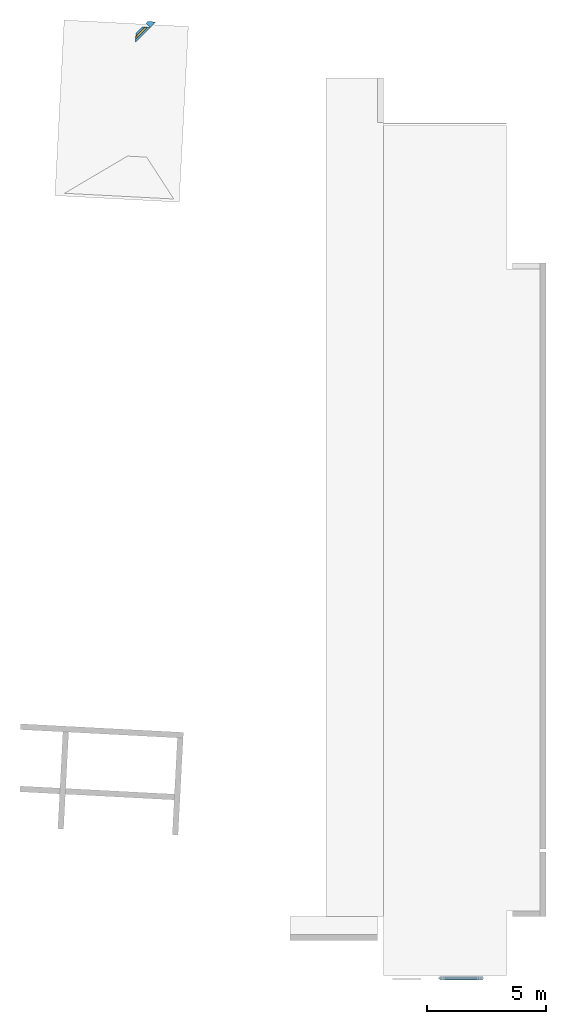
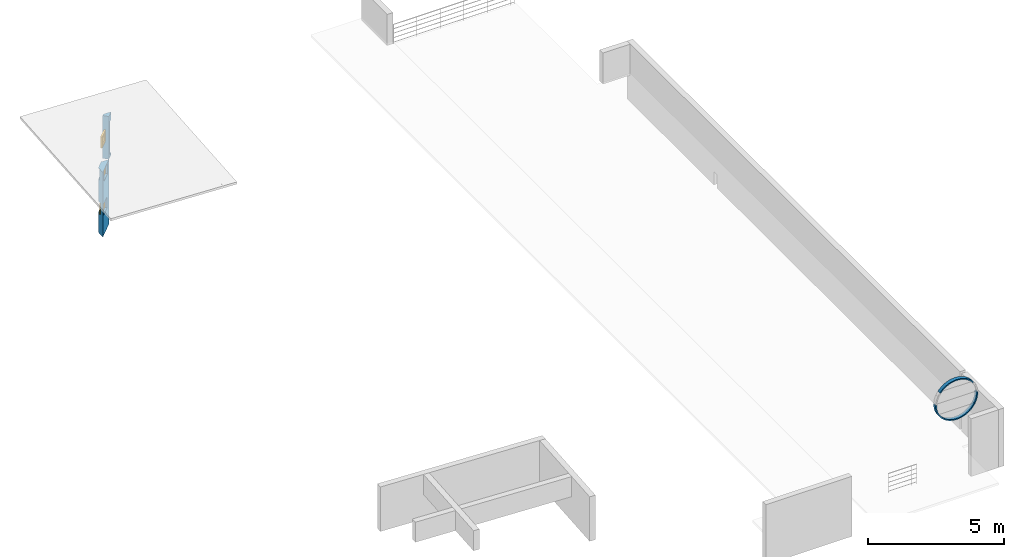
"""IFC2X3 building model written with IfcOpenShell, lengths in millimetres."""

from ifc_helpers import new_model, entity, si_unit, converted_unit, derived_unit, direction, frame, frame_2d, origin, place, context, subcontext, project, spatial, polyline, rectangle, outline, extrude, faceted_brep, source, transform, mapped, material, material_list, layer, layer_set, type_object, type_shapes, element, fill, aggregate, save


model = new_model("IFC2X3")

# Units and contexts
model_context = context("Model", 3, precision=0.01, world=origin(), true_north=direction((6.12303176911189e-17, 1.0)))
body_context = subcontext(model_context, "Body", "Model", "MODEL_VIEW")
ifc_project = project(units=[si_unit("LENGTHUNIT", "METRE", prefix="MILLI"), si_unit("AREAUNIT", "SQUARE_METRE"), si_unit("VOLUMEUNIT", "CUBIC_METRE"), converted_unit("PLANEANGLEUNIT", "DEGREE", entity("IfcRatioMeasure", 0.0174532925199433), si_unit("PLANEANGLEUNIT", "RADIAN"), dimensions=[0, 0, 0, 0, 0, 0, 0]), si_unit("MASSUNIT", "GRAM", prefix="KILO"), derived_unit("MASSDENSITYUNIT", [(si_unit("MASSUNIT", "GRAM", prefix="KILO"), 1), (si_unit("LENGTHUNIT", "METRE"), -3)]), si_unit("TIMEUNIT", "SECOND"), si_unit("FREQUENCYUNIT", "HERTZ"), si_unit("THERMODYNAMICTEMPERATUREUNIT", "DEGREE_CELSIUS"), derived_unit("THERMALTRANSMITTANCEUNIT", [(si_unit("MASSUNIT", "GRAM", prefix="KILO"), 1), (si_unit("THERMODYNAMICTEMPERATUREUNIT", "KELVIN"), -1), (si_unit("TIMEUNIT", "SECOND"), -3)]), derived_unit("VOLUMETRICFLOWRATEUNIT", [(si_unit("LENGTHUNIT", "METRE"), 3), (si_unit("TIMEUNIT", "SECOND"), -1)]), si_unit("ELECTRICCURRENTUNIT", "AMPERE"), si_unit("ELECTRICVOLTAGEUNIT", "VOLT"), si_unit("POWERUNIT", "WATT"), si_unit("FORCEUNIT", "NEWTON", prefix="KILO"), si_unit("ILLUMINANCEUNIT", "LUX"), si_unit("LUMINOUSFLUXUNIT", "LUMEN"), si_unit("LUMINOUSINTENSITYUNIT", "CANDELA"), derived_unit("USERDEFINED", [(si_unit("MASSUNIT", "GRAM", prefix="KILO"), -1), (si_unit("LENGTHUNIT", "METRE"), -2), (si_unit("TIMEUNIT", "SECOND"), 3), (si_unit("LUMINOUSFLUXUNIT", "LUMEN"), 1)]), derived_unit("LINEARVELOCITYUNIT", [(si_unit("LENGTHUNIT", "METRE"), 1), (si_unit("TIMEUNIT", "SECOND"), -1)]), si_unit("PRESSUREUNIT", "PASCAL"), derived_unit("USERDEFINED", [(si_unit("LENGTHUNIT", "METRE"), -2), (si_unit("MASSUNIT", "GRAM", prefix="KILO"), 1), (si_unit("TIMEUNIT", "SECOND"), -2)])], contexts=[model_context])

# Site, building, storey
site_placement = place(None, origin())
site = spatial("IfcSite", under=ifc_project, at=site_placement, Name="表面", CompositionType="ELEMENT")
building_placement = place(site_placement, origin())
building = spatial("IfcBuilding", under=site, at=building_placement, CompositionType="ELEMENT")
storey_1_placement = place(building_placement, frame((0.0, 0.0, 9000.0)))
storey_1 = spatial("IfcBuildingStorey", under=building, at=storey_1_placement, Name="4F", CompositionType="ELEMENT", Elevation=9000.00000000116)

# Curtain wall, members
curtain_wall_type = type_object("IfcCurtainWallType", Name="幕墙:幕墙 1", PredefinedType="NOTDEFINED")
curtain_wall_placement = place(storey_1_placement, frame((0.0, 0.0, -9000.0)))
curtain_wall = element("IfcCurtainWall", 1, at=curtain_wall_placement, inside=storey_1, type_object=curtain_wall_type, Name="幕墙:幕墙 1", ObjectType="幕墙:幕墙 1")
ifc_material_1 = material(Name="金属 - 铝")
member_type_1 = type_object("IfcMemberType", Name="50 x 150mm", PredefinedType="MEMBER")
shared_shape_1 = source(origin(), body_context, "Body", "Brep", [
    faceted_brep([(-53.906586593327, 75.0, -307.036638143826), (-95.0842742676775, 75.0, -402.948416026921), (-147.073944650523, 75.0, -493.456676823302), (-188.915408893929, 75.0, -466.083480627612), (-139.809727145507, 75.0, -380.595924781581), (-100.916262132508, 75.0, -290.004597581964), (-72.7565731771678, 75.0, -195.524323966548), (-55.7082802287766, 75.0, -98.4220794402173), (-50.0, 75.0, 0.0), (0.0, 75.0, 0.0), (-6.04352891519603, 75.0, -104.202432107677), (-24.0930722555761, 75.0, -207.007515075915), (-72.7565731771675, -75.0, -195.524323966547), (-55.7082802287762, -75.0, -98.4220794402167), (-50.0, -75.0, 0.0), (-100.916262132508, -75.0, -290.004597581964), (-139.809727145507, -75.0, -380.595924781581), (-188.915408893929, -75.0, -466.083480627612), (-147.073944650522, -75.0, -493.456676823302), (-95.0842742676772, -75.0, -402.948416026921), (-53.9065865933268, -75.0, -307.036638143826), (-24.0930722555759, -75.0, -207.007515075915), (-6.04352891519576, -75.0, -104.202432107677), (0.0, -75.0, 0.0)], [[[0, 1, 2, 3, 4, 5, 6, 7, 8, 9, 10, 11]], [[6, 12, 13, 7]], [[8, 7, 13, 14]], [[6, 5, 15, 12]], [[16, 15, 5, 4]], [[17, 16, 4, 3]], [[15, 16, 17, 18, 19, 20, 21, 22, 23, 14, 13, 12]], [[22, 21, 11, 10]], [[23, 22, 10, 9]], [[21, 20, 0, 11]], [[0, 20, 19, 1]], [[1, 19, 18, 2]], [[9, 8, 14, 23]], [[3, 2, 18, 17]]]),
])
type_shapes(member_type_1, [shared_shape_1])
member_1_placement = place(storey_1_placement, frame((-7872.96232385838, -32116.868426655, 5368.11753433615), z_axis=(-0.506296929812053, 0.0, -0.862359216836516), x_axis=(0.862359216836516, 0.0, -0.506296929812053)))
member_1 = element("IfcMember", 2, at=member_1_placement, type_object=member_type_1, material=ifc_material_1, Name="矩形竖梃:50 x 150mm", ObjectType="50 x 150mm", context=body_context, shape_type="MappedRepresentation", body=[
    mapped(shared_shape_1, transform((0.0, 0.0, 0.0), scale=1.0)),
])
member_type_2 = type_object("IfcMemberType", Name="50 x 150mm", PredefinedType="MEMBER")
shared_shape_2 = source(origin(), body_context, "Body", "Brep", [
    faceted_brep([(-1340.60223265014, 75.0, -787.076639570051), (-1316.23589076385, 75.0, -743.415657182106), (-1222.41022483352, 75.0, -788.49061508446), (-1123.78502417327, 75.0, -821.778408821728), (-1021.83463915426, 75.0, -842.781418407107), (-918.083128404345, 75.0, -851.185669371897), (-814.081475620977, 75.0, -846.865526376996), (-711.384403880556, 75.0, -829.885571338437), (-611.527134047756, 75.0, -800.499637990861), (-516.002434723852, 75.0, -759.147017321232), (-426.23830681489, 75.0, -706.445890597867), (-343.576636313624, 75.0, -643.184088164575), (-269.253134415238, 75.0, -570.307312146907), (-204.378864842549, 75.0, -488.904999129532), (-149.923634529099, 75.0, -400.194034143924), (-106.701495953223, 75.0, -305.500559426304), (-75.3585778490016, 75.0, -206.240149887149), (-56.3634262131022, 75.0, -103.896651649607), (-50.0, 75.0, 0.0), (0.0, 75.0, 0.0), (-6.01018298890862, 75.0, -103.915523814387), (-23.9605804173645, 75.0, -206.445234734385), (-53.6118065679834, 75.0, -306.221801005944), (-94.568433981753, 75.0, -401.914606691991), (-146.284266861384, 75.0, -492.247496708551), (-208.069625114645, 75.0, -576.015795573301), (-279.100541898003, 75.0, -652.102372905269), (-358.429752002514, 75.0, -719.492541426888), (-444.99932454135, 75.0, -777.28758878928), (-537.65477146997, 75.0, -824.716762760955), (-635.160443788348, 75.0, -861.14754994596), (-736.216010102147, 75.0, -886.094110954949), (-839.473797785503, 75.0, -899.223759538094), (-943.556765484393, 75.0, -900.361399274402), (-1047.07686728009, 75.0, -889.491858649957), (-1148.65356360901, 75.0, -866.760093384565), (-1246.93223207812, 75.0, -832.469253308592), (-50.0, -75.0, 0.0), (-56.3634262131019, -75.0, -103.896651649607), (-75.3585778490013, -75.0, -206.240149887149), (-106.701495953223, -75.0, -305.500559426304), (-343.576636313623, -75.0, -643.184088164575), (-269.253134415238, -75.0, -570.307312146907), (-204.378864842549, -75.0, -488.904999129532), (-149.923634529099, -75.0, -400.194034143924), (-426.23830681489, -75.0, -706.445890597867), (-516.002434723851, -75.0, -759.147017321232), (-711.384403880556, -75.0, -829.885571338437), (-611.527134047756, -75.0, -800.499637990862), (-814.081475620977, -75.0, -846.865526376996), (-1222.41022483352, -75.0, -788.49061508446), (-1123.78502417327, -75.0, -821.778408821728), (-1021.83463915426, -75.0, -842.781418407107), (-918.083128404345, -75.0, -851.185669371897), (-1316.23589076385, -75.0, -743.415657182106), (-1246.93223207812, -75.0, -832.469253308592), (-1148.65356360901, -75.0, -866.760093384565), (-1047.07686728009, -75.0, -889.491858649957), (-943.556765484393, -75.0, -900.361399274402), (-839.473797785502, -75.0, -899.223759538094), (-736.216010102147, -75.0, -886.094110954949), (-635.160443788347, -75.0, -861.14754994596), (-537.65477146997, -75.0, -824.716762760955), (-444.999324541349, -75.0, -777.28758878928), (-358.429752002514, -75.0, -719.492541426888), (-279.100541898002, -75.0, -652.102372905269), (-208.069625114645, -75.0, -576.015795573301), (-146.284266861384, -75.0, -492.247496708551), (-94.5684339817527, -75.0, -401.914606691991), (-53.6118065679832, -75.0, -306.221801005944), (-23.9605804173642, -75.0, -206.445234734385), (-6.01018298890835, -75.0, -103.915523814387), (0.0, -75.0, 0.0), (-1340.60223265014, -75.0, -787.076639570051)], [[[0, 1, 2, 3, 4, 5, 6, 7, 8, 9, 10, 11, 12, 13, 14, 15, 16, 17, 18, 19, 20, 21, 22, 23, 24, 25, 26, 27, 28, 29, 30, 31, 32, 33, 34, 35, 36]], [[37, 18, 17, 38]], [[39, 38, 17, 16]], [[15, 40, 39, 16]], [[12, 11, 41, 42]], [[12, 42, 43, 13]], [[14, 44, 40, 15]], [[11, 10, 45, 41]], [[43, 44, 14, 13]], [[10, 9, 46, 45]], [[47, 48, 8, 7]], [[48, 46, 9, 8]], [[49, 47, 7, 6]], [[3, 2, 50, 51]], [[52, 53, 5, 4]], [[51, 52, 4, 3]], [[6, 5, 53, 49]], [[54, 50, 2, 1]], [[55, 56, 57, 58, 59, 60, 61, 62, 63, 64, 65, 66, 67, 68, 69, 70, 71, 72, 37, 38, 39, 40, 44, 43, 42, 41, 45, 46, 48, 47, 49, 53, 52, 51, 50, 54, 73]], [[71, 20, 19, 72]], [[21, 20, 71, 70]], [[70, 69, 22, 21]], [[26, 65, 64, 27]], [[25, 66, 65, 26]], [[64, 63, 28, 27]], [[69, 68, 23, 22]], [[24, 67, 66, 25]], [[67, 24, 23, 68]], [[30, 61, 60, 31]], [[29, 62, 61, 30]], [[31, 60, 59, 32]], [[56, 55, 36, 35]], [[33, 58, 57, 34]], [[34, 57, 56, 35]], [[59, 58, 33, 32]], [[36, 55, 73, 0]], [[28, 63, 62, 29]], [[19, 18, 37, 72]], [[73, 54, 1, 0]]]),
])
type_shapes(member_type_2, [shared_shape_2])
member_2_placement = place(storey_1_placement, frame((-9427.53750143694, -32116.868426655, 5368.11753433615), z_axis=(-0.506296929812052, 0.0, 0.862359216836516), x_axis=(-0.862359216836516, 0.0, -0.506296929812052)))
member_2 = element("IfcMember", 3, at=member_2_placement, type_object=member_type_2, material=ifc_material_1, Name="矩形竖梃:50 x 150mm", ObjectType="50 x 150mm", context=body_context, shape_type="MappedRepresentation", body=[
    mapped(shared_shape_2, transform((0.0, 0.0, 0.0), scale=1.0)),
])
member_type_3 = type_object("IfcMemberType", Name="50 x 150mm", PredefinedType="MEMBER")
shared_shape_3 = source(origin(), body_context, "Body", "Brep", [
    faceted_brep([(-648.793519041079, 75.0, -813.026566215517), (-556.84336311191, 75.0, -778.532033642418), (-469.477477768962, 75.0, -733.677758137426), (-387.858420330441, 75.0, -679.06060501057), (-313.072276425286, 75.0, -615.407351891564), (-246.114207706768, 75.0, -543.565017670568), (-187.87520947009, 75.0, -464.489591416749), (-139.130254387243, 75.0, -379.233311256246), (-100.527980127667, 75.0, -288.930662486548), (-72.5820580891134, 75.0, -194.783281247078), (-55.6643580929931, 75.0, -98.0439646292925), (-50.0, 75.0, 0.0), (0.0, 75.0, 0.0), (-5.99702722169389, 75.0, -103.802110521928), (-23.9083078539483, 75.0, -206.222950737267), (-53.4955006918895, 75.0, -305.899630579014), (-94.3648959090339, 75.0, -401.505775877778), (-145.972654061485, 75.0, -491.769178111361), (-207.632042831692, 75.0, -575.488723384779), (-278.52257521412, 75.0, -651.55037537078), (-357.700927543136, 75.0, -718.941999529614), (-444.113492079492, 75.0, -776.766831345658), (-536.610397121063, 75.0, -824.255409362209), (-633.960808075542, 75.0, -860.77581422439), (-734.869305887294, 75.0, -885.842077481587), (-837.993124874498, 75.0, -899.120648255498), (-941.960020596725, 75.0, -900.434831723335), (-1045.38652998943, 75.0, -889.767140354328), (-1146.89638078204, 75.0, -867.259526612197), (-1133.2753556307, 75.0, -819.150611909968), (-1037.3964937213, 75.0, -840.409675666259), (-939.707294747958, 75.0, -850.485605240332), (-841.507685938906, 75.0, -849.244322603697), (-744.104386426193, 75.0, -836.702345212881), (-50.0, -75.0, 0.0), (-55.6643580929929, -75.0, -98.0439646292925), (-72.5820580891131, -75.0, -194.783281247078), (-100.527980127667, -75.0, -288.930662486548), (-313.072276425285, -75.0, -615.407351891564), (-246.114207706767, -75.0, -543.565017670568), (-387.858420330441, -75.0, -679.06060501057), (-139.130254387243, -75.0, -379.233311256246), (-187.875209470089, -75.0, -464.489591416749), (-648.793519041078, -75.0, -813.026566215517), (-556.84336311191, -75.0, -778.532033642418), (-469.477477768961, -75.0, -733.677758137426), (-744.104386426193, -75.0, -836.702345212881), (-1037.3964937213, -75.0, -840.409675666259), (-939.707294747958, -75.0, -850.485605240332), (-841.507685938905, -75.0, -849.244322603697), (-1133.2753556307, -75.0, -819.150611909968), (-536.610397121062, -75.0, -824.255409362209), (-444.113492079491, -75.0, -776.766831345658), (-357.700927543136, -75.0, -718.941999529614), (-278.52257521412, -75.0, -651.55037537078), (-207.632042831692, -75.0, -575.488723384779), (-145.972654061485, -75.0, -491.769178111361), (-94.3648959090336, -75.0, -401.505775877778), (-53.4955006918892, -75.0, -305.899630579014), (-23.908307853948, -75.0, -206.222950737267), (-5.99702722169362, -75.0, -103.802110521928), (0.0, -75.0, 0.0), (-1146.89638078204, -75.0, -867.259526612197), (-1045.38652998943, -75.0, -889.767140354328), (-941.960020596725, -75.0, -900.434831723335), (-837.993124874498, -75.0, -899.120648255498), (-734.869305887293, -75.0, -885.842077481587), (-633.960808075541, -75.0, -860.77581422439)], [[[0, 1, 2, 3, 4, 5, 6, 7, 8, 9, 10, 11, 12, 13, 14, 15, 16, 17, 18, 19, 20, 21, 22, 23, 24, 25, 26, 27, 28, 29, 30, 31, 32, 33]], [[34, 11, 10, 35]], [[36, 35, 10, 9]], [[8, 37, 36, 9]], [[5, 4, 38, 39]], [[4, 3, 40, 38]], [[7, 41, 37, 8]], [[7, 6, 42, 41]], [[5, 39, 42, 6]], [[43, 44, 1, 0]], [[44, 45, 2, 1]], [[46, 43, 0, 33]], [[31, 30, 47, 48]], [[48, 49, 32, 31]], [[49, 46, 33, 32]], [[50, 47, 30, 29]], [[2, 45, 40, 3]], [[51, 52, 53, 54, 55, 56, 57, 58, 59, 60, 61, 34, 35, 36, 37, 41, 42, 39, 38, 40, 45, 44, 43, 46, 49, 48, 47, 50, 62, 63, 64, 65, 66, 67]], [[60, 13, 12, 61]], [[14, 13, 60, 59]], [[59, 58, 15, 14]], [[55, 54, 19, 18]], [[54, 53, 20, 19]], [[58, 57, 16, 15]], [[56, 17, 16, 57]], [[17, 56, 55, 18]], [[22, 51, 67, 23]], [[21, 52, 51, 22]], [[23, 67, 66, 24]], [[64, 63, 27, 26]], [[25, 65, 64, 26]], [[24, 66, 65, 25]], [[27, 63, 62, 28]], [[20, 53, 52, 21]], [[12, 11, 34, 61]], [[62, 50, 29, 28]]]),
])
type_shapes(member_type_3, [shared_shape_3])
member_3_placement = place(storey_1_placement, frame((-7931.30791311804, -32116.868426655, 6368.11753433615), z_axis=(0.603149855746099, 0.0, -0.797627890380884), x_axis=(0.797627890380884, 0.0, 0.603149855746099)))
member_3 = element("IfcMember", 4, at=member_3_placement, type_object=member_type_3, material=ifc_material_1, Name="矩形竖梃:50 x 150mm", ObjectType="50 x 150mm", context=body_context, shape_type="MappedRepresentation", body=[
    mapped(shared_shape_3, transform((0.0, 0.0, 0.0), scale=1.0)),
])
member_type_4 = type_object("IfcMemberType", Name="50 x 150mm", PredefinedType="MEMBER")
shared_shape_4 = source(origin(), body_context, "Body", "Brep", [
    faceted_brep([(-53.9065865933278, 75.0, -307.036638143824), (-95.0842742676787, 75.0, -402.948416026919), (-147.073944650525, 75.0, -493.456676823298), (-188.91540889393, 75.0, -466.083480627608), (-139.809727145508, 75.0, -380.595924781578), (-100.916262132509, 75.0, -290.004597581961), (-72.7565731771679, 75.0, -195.524323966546), (-55.7082802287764, 75.0, -98.4220794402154), (-50.0, 75.0, 0.0), (0.0, 75.0, 0.0), (-6.04352891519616, 75.0, -104.202432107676), (-24.0930722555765, 75.0, -207.007515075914), (-72.7565731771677, -75.0, -195.524323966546), (-55.7082802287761, -75.0, -98.4220794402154), (-50.0, -75.0, 0.0), (-100.916262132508, -75.0, -290.004597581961), (-139.809727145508, -75.0, -380.595924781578), (-188.91540889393, -75.0, -466.083480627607), (-147.073944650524, -75.0, -493.456676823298), (-95.0842742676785, -75.0, -402.948416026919), (-53.9065865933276, -75.0, -307.036638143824), (-24.0930722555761, -75.0, -207.007515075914), (-6.04352891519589, -75.0, -104.202432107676), (0.0, -75.0, 0.0)], [[[0, 1, 2, 3, 4, 5, 6, 7, 8, 9, 10, 11]], [[6, 12, 13, 7]], [[8, 7, 13, 14]], [[6, 5, 15, 12]], [[16, 15, 5, 4]], [[17, 16, 4, 3]], [[15, 16, 17, 18, 19, 20, 21, 22, 23, 14, 13, 12]], [[22, 21, 11, 10]], [[23, 22, 10, 9]], [[21, 20, 0, 11]], [[0, 20, 19, 1]], [[1, 19, 18, 2]], [[9, 8, 14, 23]], [[3, 2, 18, 17]]]),
])
type_shapes(member_type_4, [shared_shape_4])
member_4_placement = place(storey_1_placement, frame((-9550.54253018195, -32116.868426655, 5868.11753433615), z_axis=(0.0484264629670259, 0.0, 0.998826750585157), x_axis=(-0.998826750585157, 0.0, 0.0484264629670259)))
member_4 = element("IfcMember", 5, at=member_4_placement, type_object=member_type_4, material=ifc_material_1, Name="矩形竖梃:50 x 150mm", ObjectType="50 x 150mm", context=body_context, shape_type="MappedRepresentation", body=[
    mapped(shared_shape_4, transform((0.0, 0.0, 0.0), scale=1.0)),
])
aggregate(curtain_wall, [member_1, member_2, member_3, member_4])

# Wall, openings
ifc_material_2 = material(Name="白色涂料")
ifc_layer_1 = layer(ifc_material_2, 10.0)
ifc_material_3 = material(Name="默认墙")
ifc_layer_2 = layer(ifc_material_3, 220.0)
ifc_layer_3 = layer(ifc_material_2, 10.0)
ifc_layer_set = layer_set([ifc_layer_1, ifc_layer_2, ifc_layer_3], Name="基本墙:粉刷墙240")
wall_type = type_object("IfcWallType", Name="基本墙:粉刷墙240", PredefinedType="STANDARD", material=ifc_layer_set)
wall_placement = place(storey_1_placement, frame((-22372.9433632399, 7142.41663449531, -5907.39065005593), z_axis=(0.0, 0.0, 1.0), x_axis=(0.707106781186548, 0.707106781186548, 0.0)))
wall = element("IfcWall", 6, at=wall_placement, inside=storey_1, type_object=wall_type, Name="基本墙:粉刷墙240", ObjectType="基本墙:粉刷墙240", context=body_context, shape_type="Brep", body=[
    faceted_brep([(0.0, -120.0, 0.0), (869.712891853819, -120.0, 0.0), (869.712891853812, -120.0, 2907.39065005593), (0.0, -120.0, 2907.39065005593), (192.80638000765, -120.0, 2390.17888268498), (192.80638000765, -120.0, 2890.17888268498), (692.806380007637, -120.0, 2890.17888268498), (692.806380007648, -120.0, 2390.17888268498), (129.062047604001, -120.0, 907.330535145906), (129.062047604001, -120.0, 1407.3305351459), (629.062047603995, -120.0, 1407.3305351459), (629.062047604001, -120.0, 907.330535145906), (266.547003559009, 120.0, 0.0), (266.547003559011, 120.0, 2907.39065005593), (266.547003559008, 120.0, 2890.17888268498), (192.80638000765, 53.603644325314, 2890.17888268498), (192.80638000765, 53.603644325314, 2390.17888268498), (266.547003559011, 120.0, 2390.17888268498), (266.547003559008, 120.0, 1407.3305351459), (129.062047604, -3.79201037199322, 1407.3305351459), (129.062047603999, -3.79201037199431, 907.330535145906), (266.54700355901, 120.0, 907.330535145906), (653.615921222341, 120.0, 0.0), (653.615921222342, 120.0, 2890.17888268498), (692.806380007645, 76.474586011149, 2890.17888268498), (692.806380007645, 76.474586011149, 2390.17888268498), (653.615921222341, 120.0, 2390.17888268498), (629.062047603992, 120.0, 1407.3305351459), (629.062047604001, 120.0, 907.330535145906), (653.615921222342, 120.0, 2907.39065005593)], [[[0, 1, 2, 3], [4, 5, 6, 7], [8, 9, 10, 11]], [[12, 0, 3, 13, 14, 15, 16, 17, 18, 19, 20, 21]], [[1, 0, 12, 22]], [[4, 16, 15, 5]], [[5, 15, 14, 23, 24, 6]], [[6, 24, 25, 7]], [[16, 4, 7, 25, 26, 17]], [[8, 20, 19, 9]], [[9, 19, 18, 27, 10]], [[10, 27, 28, 11]], [[20, 8, 11, 28, 21]], [[1, 22, 26, 25, 24, 23, 29, 2]], [[3, 2, 29, 13]], [[22, 12, 21, 28, 27, 18, 17, 26]], [[23, 14, 13, 29]]]),
    faceted_brep([(976.567776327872, 120.0, 4833.99175789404), (976.567776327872, 120.0, 2907.39065005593), (874.972600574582, 120.0, 2907.39065005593), (874.972600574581, 120.0, 4833.99175789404), (1192.66474695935, -120.0, 4833.99175789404), (874.97260057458, -120.0, 4833.99175789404), (1192.66474695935, -120.0, 2907.39065005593), (874.972600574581, -120.0, 2907.39065005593), (1192.66474695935, -120.0, 4507.39065005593), (1120.36619846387, -39.7043272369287, 4507.39065005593), (1120.36619846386, -39.7043272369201, 3007.39065005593), (1192.66474695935, -120.0, 3007.39065005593), (1031.18881940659, -120.0, 3007.39065005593), (1031.18881940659, -120.0, 4507.39065005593)], [[[0, 1, 2, 3]], [[4, 0, 3, 5]], [[1, 6, 7, 2]], [[0, 4, 8, 9, 10, 11, 6, 1]], [[7, 5, 3, 2]], [[12, 10, 9, 13]], [[13, 9, 8]], [[10, 12, 11]], [[4, 5, 7, 6, 11, 12, 13, 8]]]),
])
opening_1_placement = place(wall_placement, frame((231.694904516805, -120.0, 3821.45696967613)))
opening_1 = element("IfcOpeningElement", 7, at=opening_1_placement, cuts=wall, Name="C0615:C0505:1", ObjectType="Opening", context=body_context, shape_type="SweptSolid", body=[
    extrude(rectangle(XDim=499.999999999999, YDim=500.0, at=frame_2d((249.999999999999, 250.0), x_axis=(1.0, 0.0))), frame((0.0, 0.0, 0.0), z_axis=(0.0, 1.0, 0.0), x_axis=(0.0, 0.0, 1.0)), (0.0, 0.0, 1.0), 240.0),
])
opening_2_placement = place(wall_placement, frame((192.806380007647, -120.0, 2390.17888268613)))
opening_2 = element("IfcOpeningElement", 8, at=opening_2_placement, cuts=wall, Name="C0615:C0505:1", ObjectType="Opening", context=body_context, shape_type="SweptSolid", body=[
    extrude(rectangle(XDim=499.999999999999, YDim=500.0, at=frame_2d((249.999999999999, 250.0), x_axis=(1.0, 0.0))), frame((0.0, 0.0, 0.0), z_axis=(0.0, 1.0, 0.0), x_axis=(0.0, 0.0, 1.0)), (0.0, 0.0, 1.0), 240.0),
])
opening_3_placement = place(wall_placement, frame((129.062047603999, -120.0, 907.330535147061)))
opening_3 = element("IfcOpeningElement", 9, at=opening_3_placement, cuts=wall, Name="C0615:C0505:1", ObjectType="Opening", context=body_context, shape_type="SweptSolid", body=[
    extrude(rectangle(XDim=499.999999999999, YDim=500.0, at=frame_2d((249.999999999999, 250.0), x_axis=(1.0, 0.0))), frame((0.0, 0.0, 0.0), z_axis=(0.0, 1.0, 0.0), x_axis=(0.0, 0.0, 1.0)), (0.0, 0.0, 1.0), 240.0),
])

# Storey
storey_2_placement = place(building_placement, frame((0.0, 0.0, 6000.0)))
storey_2 = spatial("IfcBuildingStorey", under=building, at=storey_2_placement, Name="3F", CompositionType="ELEMENT", Elevation=6000.00000000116)

# Window
ifc_material_4 = material(Name="竖梃")
ifc_material_5 = material(Name="玻璃")
ifc_material_list_1 = material_list([ifc_material_4, ifc_material_5])
ifc_material_list_2 = material_list([ifc_material_4, ifc_material_5])
window_style = type_object("IfcWindowStyle", Name="C0505", ConstructionType="NOTDEFINED", OperationType="NOTDEFINED", ParameterTakesPrecedence=False, Sizeable=False, material=ifc_material_list_2)
shared_shape_5 = source(origin(), body_context, "Body", "SweptSolid", [
    extrude(outline(polyline([(-250.0, -250.0), (250.0, -250.0), (250.0, 250.0), (-250.0, 250.0), (-250.0, -250.0)]), holes=[polyline([(190.0, -190.0), (-190.0, -190.0), (-190.0, 190.0), (190.0, 190.0), (190.0, -190.0)])]), frame((250.0, 86.6666666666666, 250.0), z_axis=(0.0, 1.0, 0.0), x_axis=(0.0, 0.0, -1.0)), (0.0, 0.0, 1.0), 66.6666666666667),
    extrude(rectangle(XDim=27.7162458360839, YDim=379.999999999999, at=frame_2d((0.0, -1.4210854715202e-14), x_axis=(1.0, 0.0))), frame((250.0, 142.490721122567, 60.0), z_axis=(0.0, 0.0, 1.0), x_axis=(0.0, 1.0, 0.0)), (0.0, 0.0, 1.0), 379.999999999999),
])
type_shapes(window_style, [shared_shape_5])
window_1_placement = place(opening_1_placement, frame((0.0, 0.0, -1.15414877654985e-09)))
window_1 = element("IfcWindow", 10, at=window_1_placement, inside=storey_2, type_object=window_style, material=ifc_material_list_1, Name="C0615:C0505", ObjectType="C0505", OverallHeight=499.999999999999, OverallWidth=499.999999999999, context=body_context, shape_type="MappedRepresentation", body=[
    mapped(shared_shape_5, transform((0.0, 0.0, 0.0), scale=1.0)),
])

fill(opening_1, window_1)

# Storey
storey_3_placement = place(building_placement, frame((0.0, 0.0, 3000.0)))
storey_3 = spatial("IfcBuildingStorey", under=building, at=storey_3_placement, Name="2F", CompositionType="ELEMENT", Elevation=3000.00000000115)

# Window
ifc_material_list_3 = material_list([ifc_material_4, ifc_material_5])
window_2_placement = place(opening_2_placement, frame((0.0, 0.0, -1.15414877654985e-09)))
window_2 = element("IfcWindow", 11, at=window_2_placement, inside=storey_3, type_object=window_style, material=ifc_material_list_3, Name="C0615:C0505", ObjectType="C0505", OverallHeight=499.999999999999, OverallWidth=499.999999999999, context=body_context, shape_type="MappedRepresentation", body=[
    mapped(shared_shape_5, transform((0.0, 0.0, 0.0), scale=1.0)),
])

fill(opening_2, window_2)

ifc_material_list_4 = material_list([ifc_material_4, ifc_material_5])
window_3_placement = place(opening_3_placement, frame((0.0, 0.0, -1.15460352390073e-09)))
window_3 = element("IfcWindow", 12, at=window_3_placement, inside=storey_3, type_object=window_style, material=ifc_material_list_4, Name="C0615:C0505", ObjectType="C0505", OverallHeight=499.999999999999, OverallWidth=499.999999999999, context=body_context, shape_type="MappedRepresentation", body=[
    mapped(shared_shape_5, transform((0.0, 0.0, 0.0), scale=1.0)),
])

fill(opening_3, window_3)

save(model, "model.ifc")
